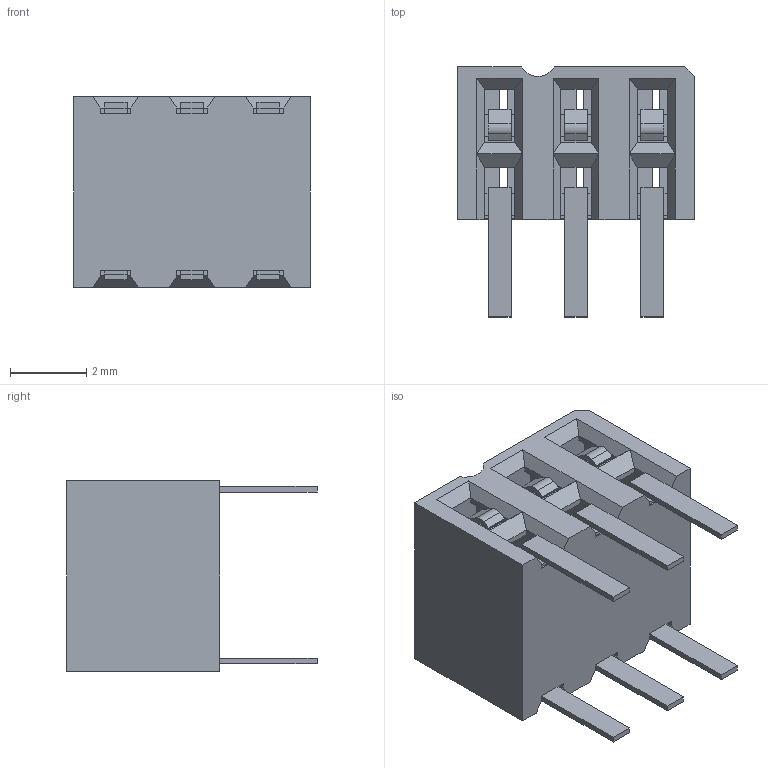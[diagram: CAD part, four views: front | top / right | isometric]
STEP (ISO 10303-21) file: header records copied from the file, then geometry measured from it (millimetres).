
FILE_DESCRIPTION((''),'2;1');
FILE_NAME('872640652','2005-06-23T',('rnarayana'),(''),'PRO/ENGINEER BY PARAMETRIC TECHNOLOGY CORPORATION, 2002490','PRO/ENGINEER BY PARAMETRIC TECHNOLOGY CORPORATION, 2002490','');
FILE_SCHEMA(('CONFIG_CONTROL_DESIGN'));
Length unit declared in the file: millimetre
Products named in the file (1): 872640652
Bounding box: 6.2 x 6.55 x 5 mm (x, y, z)
Volume: 71.6 mm3; surface area: 354.5 mm2
Topology: 1 solids, 1 shells, 333 faces, 990 edges, 620 vertices
Faces by surface type: plane 320, cylinder 13
Entity records: 10901 total; most frequent: ORIENTED_EDGE 1950, CARTESIAN_POINT 1927, DIRECTION 1698, EDGE_CURVE 975, VECTOR 952, LINE 952, VERTEX_POINT 602, AXIS2_PLACEMENT_3D 373
